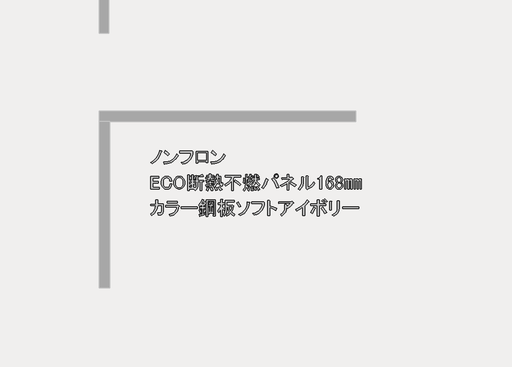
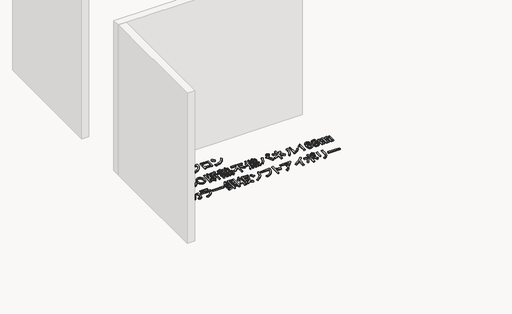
# One storey, part 34 of 117: 1 proxy.
"""IFC4 building model written with IfcOpenShell, lengths in millimetres."""

from ifc_helpers import new_model, si_unit, frame, origin, place, context, project, spatial, polyline, outline, extrude, element, save

model = new_model("IFC4")

# Units and contexts
model_context = context("Model", 3, world=origin())
ifc_project = project(units=[si_unit("LENGTHUNIT", "METRE", prefix="MILLI")], contexts=[model_context])

# Site, building, storey
site = spatial("IfcSite", under=ifc_project)
building = spatial("IfcBuilding", under=site)
storey = spatial("IfcBuildingStorey", under=building, Name="レベル 1", Elevation=500.0)

# Proxy
placement = place(None, origin())
element("IfcBuildingElementProxy", 1, Name="200㎜\u3000MS Pゴシック", ObjectType="200㎜\u3000MS Pゴシック", at=placement, inside=storey, context=model_context, shape_type="SweptSolid", body=[
    extrude(outline(polyline([(24977.6706985, -20641.0496882), (24952.0952502, -20700.8215225), (24923.646156, -20746.7998566), (24881.9782907, -20792.2034615), (24832.8389462, -20829.560858), (24805.2519457, -20807.7211493), (24852.9544673, -20777.2605029), (24892.6107805, -20738.7536481), (24909.9963381, -20714.8305462), (24925.3703435, -20686.7406577), (24938.7327969, -20654.4839827), (24950.0836981, -20618.0605212), (24981.1190736, -20631.8540214), (24984.2800841, -20636.4518548), (24977.6706985, -20641.0496882)])), frame((0.0, 0.0, 500.0), z_axis=(0.0, 0.0, 1.0), x_axis=(1.0, 0.0, 0.0)), (0.0, 0.0, 1.0), 25.0),
    extrude(outline(polyline([(25077.3977052, -20696.2236891), (25018.7753292, -20649.0958967), (25038.3161212, -20624.9572713), (25065.6157571, -20644.7854279), (25099.2374138, -20674.3839804), (25077.3977052, -20696.2236891)])), frame((0.0, 0.0, 500.0), z_axis=(0.0, 0.0, 1.0), x_axis=(1.0, 0.0, 0.0)), (0.0, 0.0, 1.0), 25.0),
    extrude(outline(polyline([(25239.4713328, -20696.2236891), (25222.947869, -20725.965924), (25203.8381239, -20751.9724192), (25182.1420975, -20774.2431748), (25157.8597898, -20792.7781907), (25130.9912008, -20807.577467), (25101.5363306, -20818.6410036), (25069.495179, -20825.9688006), (25034.8677461, -20829.560858), (25029.1204544, -20837.6070664), (25023.3731626, -20831.8597747), (25014.1774958, -20801.9738575), (25050.0082679, -20799.2977748), (25082.7857912, -20792.9937141), (25112.5100658, -20783.0616756), (25139.1810916, -20769.5016591), (25162.7988687, -20752.3136646), (25183.363397, -20731.4976923), (25200.8746766, -20707.053742), (25215.3327074, -20678.9818138), (25239.4713328, -20696.2236891)])), frame((0.0, 0.0, 500.0), z_axis=(0.0, 0.0, 1.0), x_axis=(1.0, 0.0, 0.0)), (0.0, 0.0, 1.0), 25.0),
    extrude(outline(polyline([(25290.2314136, -20811.1695243), (25324.014713, -20801.4889298), (25353.5234641, -20789.1142922), (25378.757667, -20774.0456116), (25399.7173217, -20756.282888), (25416.402428, -20735.8261214), (25428.8129862, -20712.6753118), (25436.9489961, -20686.8304591), (25440.8104577, -20658.2915635), (25268.3917049, -20658.2915635), (25268.3917049, -20633.0034798), (25443.1093744, -20633.0034798), (25459.2017914, -20629.5551047), (25471.8458332, -20641.0496882), (25468.325617, -20677.5449909), (25460.0638851, -20710.5919185), (25447.0606375, -20740.1904711), (25429.3158742, -20766.3406486), (25406.8295952, -20789.042451), (25379.6018005, -20808.2958784), (25347.6324901, -20824.1009308), (25310.921664, -20836.4576081), (25290.2314136, -20811.1695243)])), frame((0.0, 0.0, 500.0), z_axis=(0.0, 0.0, 1.0), x_axis=(1.0, 0.0, 0.0)), (0.0, 0.0, 1.0), 25.0),
    extrude(outline(polyline([(25704.955987, -20810.020066), (25678.5184449, -20810.020066), (25678.5184449, -20797.3760241), (25550.9285679, -20797.3760241), (25550.9285679, -20815.7673577), (25524.4910258, -20815.7673577), (25524.4910258, -20636.4518548), (25704.955987, -20636.4518548), (25704.955987, -20810.020066)]), holes=[polyline([(25550.9285679, -20661.7399386), (25550.9285679, -20772.0879404), (25678.5184449, -20772.0879404), (25678.5184449, -20661.7399386), (25550.9285679, -20661.7399386)])]), frame((0.0, 0.0, 500.0), z_axis=(0.0, 0.0, 1.0), x_axis=(1.0, 0.0, 0.0)), (0.0, 0.0, 1.0), 25.0),
    extrude(outline(polyline([(25981.0099049, -20696.2236891), (25964.4864411, -20725.965924), (25945.376696, -20751.9724192), (25923.6806696, -20774.2431748), (25899.3983619, -20792.7781907), (25872.5297729, -20807.577467), (25843.0749026, -20818.6410036), (25811.0337511, -20825.9688006), (25776.4063182, -20829.560858), (25770.6590264, -20837.6070664), (25764.9117347, -20831.8597747), (25755.7160679, -20801.9738575), (25791.5468399, -20799.2977748), (25824.3243633, -20792.9937141), (25854.0486378, -20783.0616756), (25880.7196637, -20769.5016591), (25904.3374407, -20752.3136646), (25924.9019691, -20731.4976923), (25942.4132486, -20707.053742), (25956.8712795, -20678.9818138), (25981.0099049, -20696.2236891)])), frame((0.0, 0.0, 500.0), z_axis=(0.0, 0.0, 1.0), x_axis=(1.0, 0.0, 0.0)), (0.0, 0.0, 1.0), 25.0),
    extrude(outline(polyline([(25818.9362772, -20696.2236891), (25760.3139013, -20649.0958967), (25779.8546933, -20624.9572713), (25807.1543291, -20644.7854279), (25840.7759859, -20674.3839804), (25818.9362772, -20696.2236891)])), frame((0.0, 0.0, 500.0), z_axis=(0.0, 0.0, 1.0), x_axis=(1.0, 0.0, 0.0)), (0.0, 0.0, 1.0), 25.0),
    extrude(outline(polyline([(24810.9992375, -21029.5551047), (24937.4396562, -21029.5551047), (24937.4396562, -21051.3948134), (24837.4367796, -21051.3948134), (24837.4367796, -21112.316106), (24930.5429061, -21112.316106), (24930.5429061, -21134.1558147), (24837.4367796, -21134.1558147), (24837.4367796, -21204.2727742), (24943.186948, -21204.2727742), (24943.186948, -21226.1124829), (24810.9992375, -21226.1124829), (24810.9992375, -21029.5551047)])), frame((0.0, 0.0, 500.0), z_axis=(0.0, 0.0, 1.0), x_axis=(1.0, 0.0, 0.0)), (0.0, 0.0, 1.0), 25.0),
    extrude(outline(polyline([(24975.2798252, -21128.408523), (24977.0758538, -21104.485421), (24982.4639399, -21083.2922827), (24991.4440832, -21064.8291079), (25004.016284, -21049.0958967), (25029.0170031, -21032.7161152), (25060.3397432, -21027.256188), (25091.0877541, -21032.141386), (25114.3642858, -21046.79698), (25130.1693381, -21070.3608762), (25136.2039944, -21099.6720642), (25108.616994, -21099.6720642), (25103.731796, -21078.4070847), (25093.6740354, -21062.8893969), (25078.4437123, -21052.5442717), (25060.3397432, -21049.0958967), (25040.7989512, -21053.1190009), (25023.5570759, -21065.1883136), (25014.5050914, -21076.8984206), (25008.0393882, -21091.3384911), (25002.8668256, -21128.408523), (25008.0393882, -21165.4785548), (25014.5050914, -21179.9186254), (25023.5570759, -21191.6287323), (25040.2242221, -21202.8359513), (25060.3397432, -21206.5716909), (25080.742629, -21203.4106804), (25095.9729521, -21193.927649), (25108.0422648, -21174.3868571), (25112.0653691, -21147.949315), (25139.6523695, -21147.949315), (25133.3303486, -21182.7204301), (25126.2899162, -21196.8731361), (25116.6632025, -21208.8706076), (25105.8151893, -21217.4197041), (25092.8119417, -21223.5262016), (25060.3397432, -21228.4113996), (25029.0170031, -21222.9514724), (25004.016284, -21206.5716909), (24991.4440832, -21190.9103209), (24982.4639399, -21172.6626695), (24977.0758538, -21151.8287369), (24975.2798252, -21128.408523)])), frame((0.0, 0.0, 500.0), z_axis=(0.0, 0.0, 1.0), x_axis=(1.0, 0.0, 0.0)), (0.0, 0.0, 1.0), 25.0),
    extrude(outline(polyline([(25170.6417667, -21127.2590646), (25172.3659542, -21104.4135799), (25177.5385168, -21084.1543764), (25186.1594544, -21066.4814543), (25198.2287671, -21051.3948134), (25210.9446501, -21040.8341648), (25224.9536738, -21033.2908443), (25240.2558381, -21028.7648521), (25256.8511431, -21027.256188), (25273.446448, -21028.7648521), (25288.7486123, -21033.2908443), (25302.757636, -21040.8341648), (25315.473519, -21051.3948134), (25327.5428317, -21066.4814543), (25336.1637694, -21084.1543764), (25341.336332, -21104.4135799), (25343.0605195, -21127.2590646), (25341.336332, -21150.1045494), (25336.1637694, -21170.3637528), (25327.5428317, -21188.036675), (25315.473519, -21203.1233159), (25302.757636, -21213.6839645), (25288.7486123, -21221.2272849), (25273.446448, -21225.7532772), (25256.8511431, -21227.2619413), (25240.2558381, -21225.7532772), (25224.9536738, -21221.2272849), (25210.9446501, -21213.6839645), (25198.2287671, -21203.1233159), (25186.1594544, -21188.036675), (25177.5385168, -21170.3637528), (25172.3659542, -21150.1045494), (25170.6417667, -21127.2590646)]), holes=[polyline([(25256.8511431, -21049.0958967), (25236.1608927, -21053.4063655), (25217.7695591, -21066.337772), (25209.2204626, -21077.4731498), (25203.1139651, -21091.3384911), (25198.2287671, -21127.2590646), (25203.1139651, -21163.1796381), (25209.2204626, -21177.0449795), (25217.7695591, -21188.1803573), (25236.1608927, -21201.1117637), (25256.8511431, -21205.4222326), (25277.5413934, -21201.1117637), (25295.932727, -21188.1803573), (25304.4818235, -21177.0449795), (25310.588321, -21163.1796381), (25315.473519, -21127.2590646), (25310.588321, -21091.3384911), (25304.4818235, -21077.4731498), (25295.932727, -21066.337772), (25277.5413934, -21053.4063655), (25256.8511431, -21049.0958967)])]), frame((0.0, 0.0, 500.0), z_axis=(0.0, 0.0, 1.0), x_axis=(1.0, 0.0, 0.0)), (0.0, 0.0, 1.0), 25.0),
    extrude(outline(polyline([(25481.8691101, -21073.2345221), (25499.1109854, -21020.3594379), (25519.8012357, -21026.1067296), (25521.5254232, -21029.2677401), (25517.502319, -21031.8540214), (25500.2604437, -21080.1312722), (25481.8691101, -21073.2345221)])), frame((0.0, 0.0, 500.0), z_axis=(0.0, 0.0, 1.0), x_axis=(1.0, 0.0, 0.0)), (0.0, 0.0, 1.0), 25.0),
    extrude(outline(polyline([(25635.8965292, -21024.9572713), (25634.1723417, -21029.5551047), (25626.7008624, -21027.256188), (25549.6871528, -21039.9002299), (25549.6871528, -21089.326939), (25641.643821, -21089.326939), (25641.643821, -21111.1666477), (25610.6084455, -21111.1666477), (25610.6084455, -21251.4005666), (25587.6192785, -21251.4005666), (25587.6192785, -21111.1666477), (25549.6871528, -21111.1666477), (25549.6871528, -21160.5933568), (25547.1008716, -21188.3958807), (25539.3420277, -21213.1810764), (25526.4106212, -21234.948944), (25508.3066522, -21253.6994833), (25491.0647769, -21234.1586914), (25501.4099021, -21224.9630245), (25411.7521506, -21224.9630245), (25411.7521506, -21246.8027332), (25388.7629836, -21246.8027332), (25388.7629836, -21007.715396), (25410.6026922, -21007.715396), (25415.4878902, -21010.0143127), (25411.7521506, -21014.6121461), (25411.7521506, -21090.4763974), (25454.2821096, -21090.4763974), (25454.2821096, -21003.1175626), (25472.6734433, -21003.1175626), (25477.5586413, -21005.4164793), (25473.8229016, -21010.0143127), (25473.8229016, -21090.4763974), (25517.502319, -21090.4763974), (25517.502319, -21108.867731), (25473.8229016, -21108.867731), (25473.8229016, -21118.0633978), (25514.0539439, -21144.5009399), (25500.2604437, -21166.3406486), (25473.8229016, -21139.9031065), (25473.8229016, -21192.7781907), (25454.2821096, -21192.7781907), (25454.2821096, -21144.5009399), (25441.0633386, -21164.3290965), (25426.6951092, -21180.1341488), (25414.0510673, -21161.7428152), (25435.890776, -21137.6041898), (25453.1326513, -21108.867731), (25411.7521506, -21108.867731), (25411.7521506, -21203.1233159), (25509.4561105, -21203.1233159), (25509.4561105, -21216.9168161), (25522.387517, -21192.7781907), (25526.6979858, -21159.4438985), (25526.6979858, -21014.6121461), (25548.5376945, -21020.3594379), (25584.7456326, -21012.8879586), (25615.2062789, -20999.6691875), (25635.8965292, -21024.9572713)])), frame((0.0, 0.0, 500.0), z_axis=(0.0, 0.0, 1.0), x_axis=(1.0, 0.0, 0.0)), (0.0, 0.0, 1.0), 25.0),
    extrude(outline(polyline([(25427.8445675, -21081.2807305), (25415.2005257, -21030.7045631), (25434.7413176, -21023.8078129), (25442.5001615, -21047.9464383), (25447.3853595, -21074.3839804), (25427.8445675, -21081.2807305)])), frame((0.0, 0.0, 500.0), z_axis=(0.0, 0.0, 1.0), x_axis=(1.0, 0.0, 0.0)), (0.0, 0.0, 1.0), 25.0),
    extrude(outline(polyline([(25771.5326148, -21197.3760241), (25781.5903754, -21224.67566), (25786.4755734, -21246.8027332), (25757.7391146, -21252.550025), (25755.1528333, -21230.9976809), (25747.3939894, -21200.8243992), (25771.5326148, -21197.3760241)])), frame((0.0, 0.0, 500.0), z_axis=(0.0, 0.0, 1.0), x_axis=(1.0, 0.0, 0.0)), (0.0, 0.0, 1.0), 25.0),
    extrude(outline(polyline([(25827.856074, -21250.2511083), (25819.522501, -21225.5377537), (25806.0163654, -21204.2727742), (25826.7066157, -21196.2265657), (25843.6611264, -21217.7789098), (25855.4430745, -21241.0554415), (25827.856074, -21250.2511083)])), frame((0.0, 0.0, 500.0), z_axis=(0.0, 0.0, 1.0), x_axis=(1.0, 0.0, 0.0)), (0.0, 0.0, 1.0), 25.0),
    extrude(outline(polyline([(25726.7037391, -21201.9738575), (25730.1521141, -21206.8590555), (25724.4048224, -21210.020066), (25714.6344264, -21235.5955143), (25703.714572, -21254.8489417), (25680.725405, -21243.3543582), (25693.3694469, -21219.790462), (25703.714572, -21192.7781907), (25726.7037391, -21201.9738575)])), frame((0.0, 0.0, 500.0), z_axis=(0.0, 0.0, 1.0), x_axis=(1.0, 0.0, 0.0)), (0.0, 0.0, 1.0), 25.0),
    extrude(outline(polyline([(25758.8885729, -21065.1883136), (25733.6004892, -21065.1883136), (25729.0026558, -21082.6457123), (25718.6575306, -21095.9363245), (25702.5651137, -21105.0601502), (25680.725405, -21110.0171893), (25676.1275716, -21090.4763974), (25701.4156553, -21081.8554597), (25708.8871346, -21074.5276627), (25712.9102388, -21065.1883136), (25677.2770299, -21065.1883136), (25677.2770299, -21046.79698), (25731.3015725, -21046.79698), (25731.3015725, -21029.5551047), (25687.6221551, -21029.5551047), (25687.6221551, -21011.1637711), (25731.3015725, -21011.1637711), (25731.3015725, -20992.7724374), (25753.1412812, -20992.7724374), (25758.0264792, -20995.0713541), (25754.2907395, -20999.6691875), (25754.2907395, -21011.1637711), (25796.8206985, -21011.1637711), (25796.8206985, -21029.5551047), (25754.2907395, -21029.5551047), (25754.2907395, -21046.79698), (25807.1658237, -21046.79698), (25807.1658237, -21065.1883136), (25778.4293649, -21065.1883136), (25778.4293649, -21077.8323555), (25779.8661878, -21083.0049181), (25784.1766567, -21084.7291056), (25794.5217818, -21084.7291056), (25798.2575215, -21081.5680951), (25797.9701569, -21072.0850637), (25817.5109489, -21074.3839804), (25814.637303, -21095.9363245), (25809.3210581, -21101.3244106), (25801.4185319, -21103.1204392), (25777.2799066, -21103.1204392), (25763.4864063, -21098.2352412), (25758.8885729, -21083.5796472), (25758.8885729, -21065.1883136)])), frame((0.0, 0.0, 500.0), z_axis=(0.0, 0.0, 1.0), x_axis=(1.0, 0.0, 0.0)), (0.0, 0.0, 1.0), 25.0),
    extrude(outline(polyline([(25889.9268251, -21047.9464383), (25868.0871164, -21047.9464383), (25863.489283, -21105.4193559), (25883.0300749, -21123.8106896), (25872.6849498, -21145.6503983), (25856.5925328, -21129.5579813), (25837.3391054, -21167.2027424), (25807.1658237, -21199.6749408), (25789.9239484, -21178.9846905), (25805.0105893, -21167.0590601), (25818.085678, -21151.9724192), (25829.1492147, -21133.7247679), (25838.2011992, -21112.316106), (25820.9593239, -21097.3731475), (25829.0055324, -21080.1312722), (25842.7990326, -21090.4763974), (25845.0979493, -21047.9464383), (25817.5109489, -21047.9464383), (25817.5109489, -21029.5551047), (25845.0979493, -21029.5551047), (25845.0979493, -20995.0713541), (25866.937658, -20995.0713541), (25871.822856, -20997.3702708), (25868.0871164, -21001.9681043), (25868.0871164, -21029.5551047), (25909.467617, -21029.5551047), (25909.467617, -21126.1096063), (25912.9159921, -21150.2482317), (25916.1488437, -21152.2597838), (25918.9506484, -21149.0987733), (25923.2611173, -21127.2590646), (25942.8019092, -21134.1558147), (25938.275917, -21160.9525626), (25930.445232, -21176.9731384), (25919.3098542, -21182.2175421), (25904.8697836, -21176.6857738), (25898.3322393, -21169.3579768), (25893.6625647, -21157.719711), (25889.9268251, -21121.5117729), (25889.9268251, -21047.9464383)])), frame((0.0, 0.0, 500.0), z_axis=(0.0, 0.0, 1.0), x_axis=(1.0, 0.0, 0.0)), (0.0, 0.0, 1.0), 25.0),
    extrude(outline(polyline([(25688.7716134, -21187.0308989), (25686.7600613, -21191.9160969), (25683.0243217, -21190.479274), (25677.2770299, -21166.3406486), (25732.4510308, -21158.2944401), (25732.4510308, -21135.3052731), (25688.7716134, -21135.3052731), (25688.7716134, -21116.9139395), (25732.4510308, -21116.9139395), (25732.4510308, -21093.9247724), (25750.8423645, -21093.9247724), (25755.7275625, -21096.2236891), (25751.9918228, -21100.8215225), (25751.9918228, -21116.9139395), (25796.8206985, -21116.9139395), (25796.8206985, -21135.3052731), (25751.9918228, -21135.3052731), (25751.9918228, -21154.8460651), (25802.5679903, -21145.6503983), (25802.5679903, -21161.7428152), (25688.7716134, -21187.0308989)])), frame((0.0, 0.0, 500.0), z_axis=(0.0, 0.0, 1.0), x_axis=(1.0, 0.0, 0.0)), (0.0, 0.0, 1.0), 25.0),
    extrude(outline(polyline([(25886.47845, -21191.6287323), (25911.1918046, -21212.8937119), (25930.1578674, -21237.6070664), (25903.7203253, -21252.550025), (25884.4668979, -21222.9514724), (25865.7881997, -21203.1233159), (25886.47845, -21191.6287323)])), frame((0.0, 0.0, 500.0), z_axis=(0.0, 0.0, 1.0), x_axis=(1.0, 0.0, 0.0)), (0.0, 0.0, 1.0), 25.0),
    extrude(outline(polyline([(26204.8784135, -21175.5363154), (26165.7968295, -21137.3168252), (26124.4163289, -21107.7182726), (26140.5087458, -21087.0280223), (26184.1881632, -21115.1897519), (26225.5686638, -21153.6966067), (26204.8784135, -21175.5363154)])), frame((0.0, 0.0, 500.0), z_axis=(0.0, 0.0, 1.0), x_axis=(1.0, 0.0, 0.0)), (0.0, 0.0, 1.0), 25.0),
    extrude(outline(polyline([(25978.4351182, -21014.6121461), (26219.8213721, -21014.6121461), (26219.8213721, -21039.9002299), (26119.8184955, -21039.9002299), (26109.4733703, -21064.0388553), (26109.4733703, -21250.2511083), (26083.0358282, -21250.2511083), (26083.0358282, -21103.1204392), (26062.2018956, -21126.3969709), (26038.7816816, -21146.7998566), (26012.7751864, -21164.3290965), (25984.1824099, -21178.9846905), (25968.089993, -21152.5471484), (26007.674465, -21132.1442626), (26041.3679629, -21106.5688143), (26069.1704868, -21075.8208034), (26091.0820367, -21039.9002299), (25978.4351182, -21039.9002299), (25978.4351182, -21014.6121461)])), frame((0.0, 0.0, 500.0), z_axis=(0.0, 0.0, 1.0), x_axis=(1.0, 0.0, 0.0)), (0.0, 0.0, 1.0), 25.0),
    extrude(outline(polyline([(26392.2401249, -21249.1016499), (26392.8148541, -21222.0893787), (26389.9412082, -21193.927649), (26409.4820002, -21192.7781907), (26415.8040211, -21218.9283682), (26416.3787503, -21246.8027332), (26392.2401249, -21249.1016499)])), frame((0.0, 0.0, 500.0), z_axis=(0.0, 0.0, 1.0), x_axis=(1.0, 0.0, 0.0)), (0.0, 0.0, 1.0), 25.0),
    extrude(outline(polyline([(26372.6993329, -21197.3760241), (26364.0783953, -21227.8366704), (26349.7101659, -21254.8489417), (26330.1693739, -21242.2048998), (26344.2502387, -21217.4915453), (26354.3079993, -21189.3298156), (26372.6993329, -21197.3760241)])), frame((0.0, 0.0, 500.0), z_axis=(0.0, 0.0, 1.0), x_axis=(1.0, 0.0, 0.0)), (0.0, 0.0, 1.0), 25.0),
    extrude(outline(polyline([(26287.6394149, -21059.4410219), (26292.2372483, -21061.7399386), (26287.6394149, -21066.337772), (26286.4899565, -21105.9940851), (26280.7426647, -21139.9031065), (26262.3513311, -21127.2590646), (26268.0986229, -21092.7753141), (26269.2480812, -21055.9926468), (26287.6394149, -21059.4410219)])), frame((0.0, 0.0, 500.0), z_axis=(0.0, 0.0, 1.0), x_axis=(1.0, 0.0, 0.0)), (0.0, 0.0, 1.0), 25.0),
    extrude(outline(polyline([(26339.3650407, -21041.0496882), (26348.5607075, -21058.2915635), (26349.9975305, -21064.3262199), (26345.1123325, -21064.0388553), (26318.6747904, -21084.7291056), (26318.6747904, -21168.6395653), (26332.4682906, -21180.9962426), (26343.9628741, -21197.3760241), (26331.3188322, -21218.0662744), (26312.9274986, -21192.7781907), (26301.1455505, -21228.6987642), (26279.5932064, -21258.2973168), (26264.6502478, -21239.9059831), (26279.7368887, -21221.1554438), (26290.5130607, -21200.5370346), (26296.978764, -21178.0507556), (26299.1339984, -21153.6966067), (26299.1339984, -20996.2208125), (26317.525332, -20996.2208125), (26322.41053, -20998.5197292), (26318.6747904, -21003.1175626), (26318.6747904, -21061.7399386), (26339.3650407, -21041.0496882)])), frame((0.0, 0.0, 500.0), z_axis=(0.0, 0.0, 1.0), x_axis=(1.0, 0.0, 0.0)), (0.0, 0.0, 1.0), 25.0),
    extrude(outline(polyline([(26489.9440848, -21010.0143127), (26511.7837935, -21034.1529381), (26494.5419182, -21045.6475216), (26487.9325327, -21034.1529381), (26475.0011262, -21020.3594379), (26489.9440848, -21010.0143127)])), frame((0.0, 0.0, 500.0), z_axis=(0.0, 0.0, 1.0), x_axis=(1.0, 0.0, 0.0)), (0.0, 0.0, 1.0), 25.0),
    extrude(outline(polyline([(26500.28921, -21246.8027332), (26487.0704389, -21218.6410036), (26470.4032928, -21193.927649), (26488.7946265, -21185.8814406), (26507.7606893, -21208.8706076), (26523.278377, -21236.4576081), (26500.28921, -21246.8027332)])), frame((0.0, 0.0, 500.0), z_axis=(0.0, 0.0, 1.0), x_axis=(1.0, 0.0, 0.0)), (0.0, 0.0, 1.0), 25.0),
    extrude(outline(polyline([(26450.8625008, -21191.6287323), (26469.2538345, -21241.0554415), (26445.1152091, -21245.6532749), (26431.3217089, -21195.0771074), (26450.8625008, -21191.6287323)])), frame((0.0, 0.0, 500.0), z_axis=(0.0, 0.0, 1.0), x_axis=(1.0, 0.0, 0.0)), (0.0, 0.0, 1.0), 25.0),
    extrude(outline(polyline([(26511.7837935, -21176.6857738), (26481.0357826, -21146.2251274), (26460.0581677, -21112.316106), (26451.6527535, -21134.4431793), (26440.2300111, -21153.6966067), (26425.7899405, -21170.0763882), (26408.3325418, -21183.5825239), (26394.5390416, -21165.1911902), (26415.3729742, -21146.2969686), (26430.7469797, -21125.2475125), (26440.661058, -21102.042822), (26445.1152091, -21076.6828971), (26416.3787503, -21076.6828971), (26408.404383, -21107.2872258), (26394.8264062, -21134.7305439), (26375.6448199, -21159.0128516), (26350.8596242, -21180.1341488), (26338.2155823, -21164.0417319), (26364.0783953, -21142.4893878), (26379.596083, -21121.5117729), (26357.7563743, -21101.9709809), (26343.9628741, -21122.6612312), (26330.1693739, -21107.7182726), (26342.5978923, -21088.6803687), (26352.2964472, -21063.7514907), (26359.2650384, -21032.9316386), (26363.5036661, -20996.2208125), (26384.1939164, -20998.5197292), (26387.6422915, -21001.1060105), (26381.8949997, -21004.267021), (26379.596083, -21022.6583546), (26423.2755004, -21022.6583546), (26419.8271253, -21058.2915635), (26445.1152091, -21058.2915635), (26445.1152091, -20996.2208125), (26466.9549178, -20996.2208125), (26471.8401158, -20998.5197292), (26468.1043761, -21003.1175626), (26468.1043761, -21058.2915635), (26517.5310853, -21058.2915635), (26517.5310853, -21076.6828971), (26468.1043761, -21076.6828971), (26474.6419205, -21098.4507647), (26486.2083452, -21118.9254916), (26502.8036501, -21138.1070778), (26524.4278354, -21155.9955234), (26511.7837935, -21176.6857738)]), holes=[polyline([(26387.6422915, -21106.5688143), (26394.5390416, -21087.0280223), (26369.2509579, -21070.9356054), (26363.5036661, -21088.1774807), (26387.6422915, -21106.5688143)]), polyline([(26377.2971663, -21041.0496882), (26373.8487913, -21057.1421052), (26399.136875, -21070.9356054), (26403.7347084, -21041.0496882), (26377.2971663, -21041.0496882)])]), frame((0.0, 0.0, 500.0), z_axis=(0.0, 0.0, 1.0), x_axis=(1.0, 0.0, 0.0)), (0.0, 0.0, 1.0), 25.0),
    extrude(outline(polyline([(26737.0776305, -21050.245355), (26763.730696, -21086.9561812), (26786.2169751, -21124.6727833), (26804.5364675, -21163.3951616), (26818.6891735, -21203.1233159), (26787.653798, -21213.468441), (26772.2079514, -21170.3637528), (26754.6068704, -21131.856898), (26734.8505549, -21097.9478766), (26712.9390051, -21068.6366887), (26737.0776305, -21050.245355)])), frame((0.0, 0.0, 500.0), z_axis=(0.0, 0.0, 1.0), x_axis=(1.0, 0.0, 0.0)), (0.0, 0.0, 1.0), 25.0),
    extrude(outline(polyline([(26649.7187958, -21076.6828971), (26653.7419, -21082.1428243), (26647.419879, -21087.0280223), (26635.4942486, -21122.4457078), (26620.4076078, -21156.282888), (26602.1599564, -21188.539563), (26580.7512946, -21219.2157328), (26554.3137525, -21201.9738575), (26577.518443, -21170.5074351), (26596.556347, -21137.0294606), (26611.4274644, -21101.539934), (26622.1317953, -21064.0388553), (26649.7187958, -21076.6828971)])), frame((0.0, 0.0, 500.0), z_axis=(0.0, 0.0, 1.0), x_axis=(1.0, 0.0, 0.0)), (0.0, 0.0, 1.0), 25.0),
    extrude(outline(polyline([(26783.0559646, -21055.9926468), (26770.4119227, -21053.6937301), (26760.0667975, -21046.79698), (26753.1700474, -21036.4518548), (26750.8711307, -21023.8078129), (26753.1700474, -21011.1637711), (26760.0667975, -21000.8186459), (26770.4119227, -20993.9218958), (26783.0559646, -20991.6229791), (26795.7000065, -20993.9218958), (26806.0451316, -21000.8186459), (26812.9418817, -21011.1637711), (26815.2407984, -21023.8078129), (26812.9418817, -21036.4518548), (26806.0451316, -21046.79698), (26795.7000065, -21053.6937301), (26783.0559646, -21055.9926468)]), holes=[polyline([(26783.0559646, -21044.4980633), (26791.3895376, -21043.0612403), (26797.9989232, -21038.7507715), (26802.309392, -21032.141386), (26803.7462149, -21023.8078129), (26802.309392, -21015.4742399), (26797.9989232, -21008.8648544), (26791.3895376, -21004.5543855), (26783.0559646, -21003.1175626), (26774.7223915, -21004.5543855), (26768.113006, -21008.8648544), (26763.8025372, -21015.4742399), (26762.3657143, -21023.8078129), (26763.8025372, -21032.141386), (26768.113006, -21038.7507715), (26774.7223915, -21043.0612403), (26783.0559646, -21044.4980633)])]), frame((0.0, 0.0, 500.0), z_axis=(0.0, 0.0, 1.0), x_axis=(1.0, 0.0, 0.0)), (0.0, 0.0, 1.0), 25.0),
    extrude(outline(polyline([(27026.7411352, -21045.6475216), (27033.6378853, -21043.3486049), (27046.2819272, -21060.5904802), (27047.4313856, -21066.6251366), (27041.6840938, -21068.6366887), (26978.4638844, -21124.9601479), (26978.4638844, -21245.6532749), (26952.0263423, -21245.6532749), (26952.0263423, -21143.3514816), (26911.7953, -21167.4901069), (26866.9664243, -21189.3298156), (26847.4256323, -21168.6395653), (26892.9729195, -21149.1706145), (26934.2097379, -21126.3969709), (26971.1360874, -21100.3186345), (27003.7519682, -21070.9356054), (26873.8631744, -21076.6828971), (26870.4147993, -21051.3948134), (26952.0263423, -21049.0958967), (26952.0263423, -20997.3702708), (26975.0155094, -20997.3702708), (26981.0501657, -21000.8186459), (26978.4638844, -21006.5659377), (26978.4638844, -21047.9464383), (27026.7411352, -21045.6475216)])), frame((0.0, 0.0, 500.0), z_axis=(0.0, 0.0, 1.0), x_axis=(1.0, 0.0, 0.0)), (0.0, 0.0, 1.0), 25.0),
    extrude(outline(polyline([(27072.7194693, -21189.3298156), (27035.6494375, -21160.0186277), (27002.6025098, -21138.7536481), (27019.8443851, -21116.9139395), (27058.6386045, -21140.1904711), (27092.2602613, -21166.3406486), (27072.7194693, -21189.3298156)])), frame((0.0, 0.0, 500.0), z_axis=(0.0, 0.0, 1.0), x_axis=(1.0, 0.0, 0.0)), (0.0, 0.0, 1.0), 25.0),
    extrude(outline(polyline([(27279.7139293, -21196.2265657), (27304.4991251, -21184.0135708), (27328.2785447, -21166.9153778), (27351.0521883, -21144.9319868), (27372.8200559, -21118.0633978), (27388.9124728, -21139.9031065), (27365.6359412, -21167.7056304), (27339.4857636, -21191.3413678), (27310.4619403, -21210.8103186), (27278.564471, -21226.1124829), (27269.3688042, -21230.7103163), (27250.9774705, -21216.9168161), (27253.2763872, -21211.1695243), (27253.2763872, -21026.1067296), (27277.4150126, -21026.1067296), (27283.1623044, -21029.5551047), (27279.7139293, -21035.3023965), (27279.7139293, -21196.2265657)])), frame((0.0, 0.0, 500.0), z_axis=(0.0, 0.0, 1.0), x_axis=(1.0, 0.0, 0.0)), (0.0, 0.0, 1.0), 25.0),
    extrude(outline(polyline([(27125.6865102, -21227.2619413), (27150.8309116, -21198.0225944), (27168.7911984, -21165.4785548), (27179.5673704, -21129.6298225), (27183.1594278, -21090.4763974), (27183.1594278, -21038.7507715), (27207.2980532, -21038.7507715), (27213.0453449, -21042.1991466), (27209.5969699, -21047.9464383), (27209.5969699, -21089.326939), (27205.7893891, -21135.0897496), (27194.3666467, -21175.82368), (27175.3287427, -21211.5287301), (27148.6756772, -21242.2048998), (27125.6865102, -21227.2619413)])), frame((0.0, 0.0, 500.0), z_axis=(0.0, 0.0, 1.0), x_axis=(1.0, 0.0, 0.0)), (0.0, 0.0, 1.0), 25.0),
    extrude(outline(polyline([(27468.2250991, -21049.0958967), (27476.2713075, -21038.1760423), (27479.7196826, -21026.1067296), (27493.5131828, -21026.1067296), (27493.5131828, -21224.9630245), (27467.0756407, -21224.9630245), (27467.0756407, -21072.0850637), (27432.5918902, -21072.0850637), (27432.5918902, -21058.2915635), (27442.9370153, -21058.2915635), (27457.3052447, -21055.9926468), (27468.2250991, -21049.0958967)])), frame((0.0, 0.0, 500.0), z_axis=(0.0, 0.0, 1.0), x_axis=(1.0, 0.0, 0.0)), (0.0, 0.0, 1.0), 25.0),
    extrude(outline(polyline([(27564.7796006, -21131.856898), (27566.5037882, -21102.4738689), (27571.6763508, -21077.5449909), (27580.2972884, -21057.070264), (27592.3666011, -21041.0496882), (27607.8842888, -21030.7045631), (27626.8503517, -21027.256188), (27646.6785082, -21030.7045631), (27662.4835606, -21041.0496882), (27673.6907795, -21058.0041989), (27677.4265191, -21078.9818138), (27650.988977, -21078.9818138), (27649.2647895, -21065.1883136), (27644.0922269, -21055.9926468), (27636.3333831, -21050.8200842), (27626.8503517, -21049.0958967), (27617.3673203, -21050.8200842), (27609.6084764, -21055.9926468), (27601.5622679, -21066.9125011), (27595.8149762, -21081.2807305), (27591.2171427, -21120.3623145), (27602.7117263, -21105.4193559), (27614.2063098, -21097.6605121), (27627.99981, -21095.0742308), (27646.9658728, -21098.5226058), (27662.4835606, -21108.867731), (27675.414967, -21130.4200751), (27679.7254359, -21160.5933568), (27675.1276024, -21191.9160969), (27661.3341022, -21214.6178994), (27644.9543207, -21224.9630245), (27623.4019766, -21228.4113996), (27603.57382, -21224.1009308), (27585.469851, -21211.1695243), (27576.4178665, -21198.4536413), (27569.9521632, -21180.9962426), (27564.7796006, -21131.856898)]), holes=[polyline([(27625.7008933, -21115.7644811), (27615.0684035, -21117.7760332), (27606.1601013, -21123.8106896), (27596.6770699, -21138.7536481), (27593.5160594, -21158.2944401), (27596.9644345, -21182.4330655), (27607.3095597, -21199.6749408), (27615.6431327, -21205.7095972), (27624.551435, -21207.7211493), (27634.0344664, -21205.9969617), (27641.7933102, -21200.8243992), (27649.5521541, -21185.594076), (27652.1384354, -21160.5933568), (27649.5521541, -21138.178919), (27641.7933102, -21123.8106896), (27633.7471018, -21117.7760332), (27625.7008933, -21115.7644811)])]), frame((0.0, 0.0, 500.0), z_axis=(0.0, 0.0, 1.0), x_axis=(1.0, 0.0, 0.0)), (0.0, 0.0, 1.0), 25.0),
    extrude(outline(polyline([(27715.3586448, -21082.4301889), (27719.381749, -21059.4410219), (27731.4510617, -21041.0496882), (27747.8308432, -21030.7045631), (27769.3831873, -21027.256188), (27791.222896, -21030.9919276), (27808.4647713, -21042.1991466), (27819.6719902, -21059.7283864), (27823.4077299, -21082.4301889), (27819.9593548, -21100.5341579), (27809.6142296, -21115.7644811), (27795.8207294, -21123.8106896), (27795.8207294, -21126.1096063), (27805.87849, -21130.1327105), (27815.3615214, -21137.6041898), (27825.7066466, -21153.6966067), (27829.1550216, -21174.3868571), (27825.1319174, -21195.6518366), (27813.0626047, -21213.468441), (27794.6712711, -21224.67566), (27769.3831873, -21228.4113996), (27744.0951036, -21224.67566), (27725.7037699, -21213.468441), (27713.6344572, -21195.6518366), (27709.611353, -21174.3868571), (27713.0597281, -21153.6966067), (27723.4048532, -21137.6041898), (27732.8878846, -21130.1327105), (27742.9456452, -21126.1096063), (27742.9456452, -21123.8106896), (27728.0026866, -21113.4655644), (27718.5196552, -21099.3846996), (27715.3586448, -21082.4301889)]), holes=[polyline([(27769.3831873, -21047.9464383), (27758.7506976, -21049.9579904), (27749.8423953, -21055.9926468), (27742.9456452, -21067.1998657), (27740.6467285, -21082.4301889), (27742.9456452, -21096.7984183), (27749.8423953, -21107.7182726), (27758.463333, -21113.752929), (27768.233729, -21115.7644811), (27780.3030417, -21114.0402936), (27788.9239793, -21108.867731), (27795.8207294, -21097.6605121), (27798.1196461, -21082.4301889), (27795.8207294, -21067.1998657), (27788.9239793, -21055.9926468), (27780.0156771, -21049.9579904), (27769.3831873, -21047.9464383)]), polyline([(27769.3831873, -21135.3052731), (27755.8770517, -21137.6041898), (27745.2445619, -21144.5009399), (27738.3478118, -21155.7081588), (27736.0488951, -21170.938482), (27738.6351764, -21186.4561698), (27746.3940203, -21198.5254825), (27756.7391454, -21205.4222326), (27769.3831873, -21207.7211493), (27782.0272292, -21205.4222326), (27792.3723544, -21198.5254825), (27800.1311982, -21186.4561698), (27802.7174795, -21170.938482), (27800.1311982, -21155.4207942), (27792.3723544, -21143.3514816), (27782.6019584, -21137.3168252), (27769.3831873, -21135.3052731)])]), frame((0.0, 0.0, 500.0), z_axis=(0.0, 0.0, 1.0), x_axis=(1.0, 0.0, 0.0)), (0.0, 0.0, 1.0), 25.0),
    extrude(outline(polyline([(27877.4322724, -21227.2619413), (27857.8914804, -21227.2619413), (27857.8914804, -21069.786147), (27877.4322724, -21069.786147), (27877.4322724, -21087.0280223), (27889.5015851, -21071.5103346), (27902.7203561, -21066.337772), (27911.916023, -21067.7745949), (27918.8127731, -21072.0850637), (27925.7095232, -21085.878564), (27938.6409296, -21071.22297), (27952.1470653, -21066.337772), (27960.4806383, -21067.7745949), (27967.0900239, -21072.0850637), (27972.2625864, -21080.7060014), (27973.986774, -21092.7753141), (27973.986774, -21227.2619413), (27954.445982, -21227.2619413), (27954.445982, -21103.1204392), (27951.8597007, -21093.6374078), (27944.1008568, -21090.4763974), (27933.7557317, -21095.0742308), (27927.7210753, -21103.6951684), (27925.7095232, -21113.4655644), (27925.7095232, -21227.2619413), (27906.1687312, -21227.2619413), (27906.1687312, -21103.1204392), (27903.5824499, -21093.6374078), (27895.823606, -21090.4763974), (27885.4784809, -21095.0742308), (27879.4438245, -21103.6951684), (27877.4322724, -21113.4655644), (27877.4322724, -21227.2619413)])), frame((0.0, 0.0, 500.0), z_axis=(0.0, 0.0, 1.0), x_axis=(1.0, 0.0, 0.0)), (0.0, 0.0, 1.0), 25.0),
    extrude(outline(polyline([(28099.2777343, -21066.337772), (28107.6113074, -21067.7745949), (28114.2206929, -21072.0850637), (28119.3932555, -21080.7060014), (28121.117443, -21092.7753141), (28121.117443, -21227.2619413), (28101.5766511, -21227.2619413), (28101.5766511, -21103.1204392), (28098.9903698, -21093.6374078), (28091.2315259, -21090.4763974), (28080.8864007, -21095.0742308), (28074.8517444, -21103.6951684), (28072.8401922, -21113.4655644), (28072.8401922, -21227.2619413), (28053.2994003, -21227.2619413), (28053.2994003, -21103.1204392), (28050.713119, -21093.6374078), (28042.9542751, -21090.4763974), (28032.6091499, -21095.0742308), (28026.5744936, -21103.6951684), (28024.5629415, -21113.4655644), (28024.5629415, -21227.2619413), (28005.0221495, -21227.2619413), (28005.0221495, -21069.786147), (28024.5629415, -21069.786147), (28024.5629415, -21087.0280223), (28036.6322542, -21071.5103346), (28049.8510252, -21066.337772), (28059.046692, -21067.7745949), (28065.9434421, -21072.0850637), (28072.8401922, -21085.878564), (28085.7715987, -21071.22297), (28099.2777343, -21066.337772)])), frame((0.0, 0.0, 500.0), z_axis=(0.0, 0.0, 1.0), x_axis=(1.0, 0.0, 0.0)), (0.0, 0.0, 1.0), 25.0),
    extrude(outline(polyline([(24981.1190736, -21484.7291056), (24915.5999475, -21487.0280223), (24907.3382156, -21533.293721), (24889.44977, -21574.3868571), (24861.9346107, -21610.3074306), (24824.7927377, -21641.0554415), (24805.2519457, -21621.5146495), (24840.2385843, -21593.2810787), (24865.8858738, -21561.4554506), (24882.1938142, -21526.0377651), (24889.1624054, -21487.0280223), (24807.5508624, -21489.326939), (24805.2519457, -21466.337772), (24890.3118638, -21464.0388553), (24890.3118638, -21399.6691875), (24914.4504892, -21399.6691875), (24921.3472393, -21403.1175626), (24916.7494059, -21408.8648544), (24916.7494059, -21464.0388553), (25007.5566157, -21460.5904802), (25007.5566157, -21531.856898), (25004.9703344, -21579.8467842), (24997.2114905, -21611.1695243), (24990.602105, -21621.2272849), (24981.1190736, -21628.4113996), (24968.7623963, -21632.7218684), (24953.5320731, -21634.1586914), (24925.9450727, -21634.1586914), (24922.4966976, -21605.4222326), (24952.3826148, -21607.7211493), (24966.4634796, -21604.8475034), (24974.2223235, -21596.2265657), (24979.3948861, -21570.938482), (24981.1190736, -21531.856898), (24981.1190736, -21484.7291056)])), frame((0.0, 0.0, 500.0), z_axis=(0.0, 0.0, 1.0), x_axis=(1.0, 0.0, 0.0)), (0.0, 0.0, 1.0), 25.0),
    extrude(outline(polyline([(25095.9729521, -21630.7103163), (25145.6151847, -21612.3908238), (25165.8564279, -21600.2676303), (25183.0444223, -21586.1688052), (25197.179168, -21570.0943485), (25208.2606649, -21552.0442603), (25216.2889131, -21532.0185406), (25221.2639125, -21510.0171893), (25046.546243, -21510.0171893), (25046.546243, -21484.7291056), (25222.4133709, -21484.7291056), (25232.758496, -21481.2807305), (25253.4487464, -21493.9247724), (25256.3223922, -21499.3846996), (25251.1498297, -21504.2698976), (25245.0253719, -21531.7491363), (25235.8476653, -21556.7139349), (25223.6167101, -21579.1642933), (25208.332506, -21599.1002116), (25189.9950533, -21616.5216898), (25168.6043517, -21631.4287278), (25144.1604015, -21643.8213256), (25116.6632025, -21653.6994833), (25095.9729521, -21630.7103163)])), frame((0.0, 0.0, 500.0), z_axis=(0.0, 0.0, 1.0), x_axis=(1.0, 0.0, 0.0)), (0.0, 0.0, 1.0), 25.0),
    extrude(outline(polyline([(25225.8617459, -21444.4980633), (25067.2364933, -21444.4980633), (25067.2364933, -21419.2099795), (25225.8617459, -21419.2099795), (25225.8617459, -21444.4980633)])), frame((0.0, 0.0, 500.0), z_axis=(0.0, 0.0, 1.0), x_axis=(1.0, 0.0, 0.0)), (0.0, 0.0, 1.0), 25.0),
    extrude(outline(polyline([(25284.8979269, -21535.3052731), (25284.8979269, -21510.0171893), (25541.2271394, -21510.0171893), (25541.2271394, -21535.3052731), (25284.8979269, -21535.3052731)])), frame((0.0, 0.0, 500.0), z_axis=(0.0, 0.0, 1.0), x_axis=(1.0, 0.0, 0.0)), (0.0, 0.0, 1.0), 25.0),
    extrude(outline(polyline([(25668.5411464, -21468.6366887), (25627.1606458, -21424.9572713), (25605.3209371, -21464.0388553), (25660.494938, -21464.0388553), (25660.494938, -21482.4301889), (25634.0573959, -21482.4301889), (25634.0573959, -21511.1666477), (25671.9895215, -21511.1666477), (25671.9895215, -21529.5579813), (25634.0573959, -21529.5579813), (25634.0573959, -21616.9168161), (25673.1389799, -21606.5716909), (25675.4378966, -21626.1124829), (25583.4812284, -21651.4005666), (25581.1823117, -21657.1478584), (25576.5844783, -21653.6994833), (25569.6877282, -21630.7103163), (25614.5166039, -21621.5146495), (25614.5166039, -21529.5579813), (25576.5844783, -21529.5579813), (25576.5844783, -21511.1666477), (25614.5166039, -21511.1666477), (25614.5166039, -21482.4301889), (25592.6768952, -21482.4301889), (25577.7339366, -21500.8215225), (25565.0898948, -21480.1312722), (25593.2516244, -21442.4865112), (25617.964979, -21391.6229791), (25639.8046876, -21397.3702708), (25643.2530627, -21401.1060105), (25637.5057709, -21403.1175626), (25636.3563126, -21406.5659377), (25681.1851883, -21444.4980633), (25668.5411464, -21468.6366887)])), frame((0.0, 0.0, 500.0), z_axis=(0.0, 0.0, 1.0), x_axis=(1.0, 0.0, 0.0)), (0.0, 0.0, 1.0), 25.0),
    extrude(outline(polyline([(25683.484105, -21399.6691875), (25823.718024, -21399.6691875), (25823.718024, -21639.9059831), (25819.9822843, -21651.1132021), (25808.7750654, -21654.8489417), (25792.6826485, -21654.8489417), (25788.0848151, -21633.009233), (25799.5793986, -21633.009233), (25803.0277736, -21631.8597747), (25804.177232, -21628.4113996), (25804.177232, -21418.0605212), (25703.024897, -21418.0605212), (25703.024897, -21657.1478584), (25683.484105, -21657.1478584), (25683.484105, -21399.6691875)])), frame((0.0, 0.0, 500.0), z_axis=(0.0, 0.0, 1.0), x_axis=(1.0, 0.0, 0.0)), (0.0, 0.0, 1.0), 25.0),
    extrude(outline(polyline([(25736.3591892, -21431.8540214), (25743.5433039, -21447.0843446), (25749.0032311, -21467.4872303), (25731.7613558, -21473.2345221), (25720.2667723, -21436.4518548), (25736.3591892, -21431.8540214)])), frame((0.0, 0.0, 500.0), z_axis=(0.0, 0.0, 1.0), x_axis=(1.0, 0.0, 0.0)), (0.0, 0.0, 1.0), 25.0),
    extrude(outline(polyline([(25789.2342734, -21433.0034798), (25791.8205547, -21436.4518548), (25785.7858984, -21439.9002299), (25773.1418565, -21477.8323555), (25793.8321068, -21477.8323555), (25793.8321068, -21496.2236891), (25762.7967313, -21496.2236891), (25762.7967313, -21584.7319822), (25777.7396899, -21584.7319822), (25777.7396899, -21516.9139395), (25793.8321068, -21516.9139395), (25793.8321068, -21611.1695243), (25777.7396899, -21611.1695243), (25777.7396899, -21603.1233159), (25731.7613558, -21603.1233159), (25731.7613558, -21615.7673577), (25715.6689389, -21615.7673577), (25715.6689389, -21519.2128562), (25731.7613558, -21519.2128562), (25731.7613558, -21584.7319822), (25746.7043144, -21584.7319822), (25746.7043144, -21496.2236891), (25711.0711055, -21496.2236891), (25711.0711055, -21477.8323555), (25757.0494396, -21477.8323555), (25767.3945647, -21428.4056463), (25789.2342734, -21433.0034798)])), frame((0.0, 0.0, 500.0), z_axis=(0.0, 0.0, 1.0), x_axis=(1.0, 0.0, 0.0)), (0.0, 0.0, 1.0), 25.0),
    extrude(outline(polyline([(25671.9895215, -21547.949315), (25674.5758028, -21551.1103254), (25670.8400632, -21553.6966067), (25662.7938547, -21600.8243992), (25644.4025211, -21598.5254825), (25650.1498128, -21544.5009399), (25671.9895215, -21547.949315)])), frame((0.0, 0.0, 500.0), z_axis=(0.0, 0.0, 1.0), x_axis=(1.0, 0.0, 0.0)), (0.0, 0.0, 1.0), 25.0),
    extrude(outline(polyline([(25594.9758119, -21549.0987733), (25606.4703954, -21600.8243992), (25585.7801451, -21606.5716909), (25574.2855616, -21554.8460651), (25594.9758119, -21549.0987733)])), frame((0.0, 0.0, 500.0), z_axis=(0.0, 0.0, 1.0), x_axis=(1.0, 0.0, 0.0)), (0.0, 0.0, 1.0), 25.0),
    extrude(outline(polyline([(25994.9873184, -21628.4113996), (26023.7237772, -21611.1695243), (26045.5634859, -21589.3298156), (26027.7468815, -21547.3745858), (26017.9764855, -21506.5688143), (26005.3324436, -21506.5688143), (26005.3324436, -21530.7074397), (26002.8898446, -21572.4471461), (25995.5620476, -21606.8590555), (25983.3490526, -21633.9431679), (25966.2508596, -21653.6994833), (25952.4573594, -21630.7103163), (25965.5324482, -21613.3247587), (25974.8717973, -21591.0540032), (25980.4754067, -21563.8980496), (25982.3432766, -21531.856898), (25982.3432766, -21411.1637711), (26119.1288204, -21411.1637711), (26119.1288204, -21433.0034798), (26005.3324436, -21433.0034798), (26005.3324436, -21484.7291056), (26084.6450699, -21484.7291056), (26090.3923616, -21478.9818138), (26109.9331536, -21492.7753141), (26111.3699766, -21496.5110537), (26106.4847786, -21500.8215225), (26094.1281013, -21547.3745858), (26075.4494031, -21588.1803573), (26094.4154659, -21606.5716909), (26126.0255706, -21624.9630245), (26116.8299037, -21649.1016499), (26088.9555387, -21633.009233), (26060.5064445, -21607.7211493), (26036.0804545, -21632.1471392), (26004.1829852, -21652.550025), (25994.9873184, -21628.4113996)]), holes=[polyline([(26039.8161942, -21506.5688143), (26047.8624026, -21539.6157419), (26060.5064445, -21567.4901069), (26073.1504864, -21541.3399294), (26081.1966948, -21506.5688143), (26039.8161942, -21506.5688143)])]), frame((0.0, 0.0, 500.0), z_axis=(0.0, 0.0, 1.0), x_axis=(1.0, 0.0, 0.0)), (0.0, 0.0, 1.0), 25.0),
    extrude(outline(polyline([(25912.2263171, -21657.1478584), (25912.2263171, -21537.6041898), (25894.4097126, -21571.8005758), (25875.4436498, -21593.927649), (25863.9490663, -21573.2373987), (25881.1909416, -21550.5355963), (25894.9844418, -21526.1096063), (25905.329567, -21499.9594288), (25912.2263171, -21472.0850637), (25870.8458164, -21472.0850637), (25870.8458164, -21450.245355), (25912.2263171, -21450.245355), (25912.2263171, -21390.4735207), (25934.0660258, -21390.4735207), (25938.9512238, -21392.7724374), (25935.2154841, -21397.3702708), (25935.2154841, -21450.245355), (25973.1476097, -21450.245355), (25973.1476097, -21472.0850637), (25935.2154841, -21472.0850637), (25935.2154841, -21512.316106), (25973.1476097, -21538.7536481), (25962.8024846, -21561.7428152), (25935.2154841, -21538.7536481), (25935.2154841, -21657.1478584), (25912.2263171, -21657.1478584)])), frame((0.0, 0.0, 500.0), z_axis=(0.0, 0.0, 1.0), x_axis=(1.0, 0.0, 0.0)), (0.0, 0.0, 1.0), 25.0),
    extrude(outline(polyline([(26292.6970316, -21551.39769), (26304.8381855, -21530.5637574), (26314.8241049, -21503.6951684), (26322.6547899, -21470.7919231), (26328.3302405, -21431.8540214), (26357.0666993, -21436.4518548), (26361.9518973, -21440.1875945), (26355.917241, -21446.79698), (26350.6728372, -21482.1428243), (26341.8363762, -21514.6150228), (26329.4078577, -21544.2135753), (26313.3872819, -21570.938482), (26297.294865, -21589.9045448), (26275.4551563, -21608.8706076), (26214.5338637, -21646.8027332), (26193.8436133, -21626.1124829), (26224.5916242, -21610.2355894), (26251.3165309, -21592.4908261), (26274.0183334, -21572.878193), (26292.6970316, -21551.39769)])), frame((0.0, 0.0, 500.0), z_axis=(0.0, 0.0, 1.0), x_axis=(1.0, 0.0, 0.0)), (0.0, 0.0, 1.0), 25.0),
    extrude(outline(polyline([(26198.4414467, -21513.4655644), (26178.038561, -21474.0966158), (26158.2104044, -21445.6475216), (26183.4984882, -21431.8540214), (26203.6140093, -21460.5904802), (26224.8789888, -21498.5226058), (26198.4414467, -21513.4655644)])), frame((0.0, 0.0, 500.0), z_axis=(0.0, 0.0, 1.0), x_axis=(1.0, 0.0, 0.0)), (0.0, 0.0, 1.0), 25.0),
    extrude(outline(polyline([(26414.3097253, -21611.1695243), (26448.0930246, -21601.4889298), (26477.6017758, -21589.1142922), (26502.8359786, -21574.0456116), (26523.7956333, -21556.282888), (26540.4807397, -21535.8261214), (26552.8912978, -21512.6753118), (26561.0273077, -21486.8304591), (26564.8887694, -21458.2915635), (26392.4700166, -21458.2915635), (26392.4700166, -21433.0034798), (26567.1876861, -21433.0034798), (26583.280103, -21429.5551047), (26595.9241449, -21441.0496882), (26592.4039287, -21477.5449909), (26584.1421968, -21510.5919185), (26571.1389492, -21540.1904711), (26553.3941859, -21566.3406486), (26530.9079068, -21589.042451), (26503.6801121, -21608.2958784), (26471.7108017, -21624.1009308), (26434.9999756, -21636.4576081), (26414.3097253, -21611.1695243)])), frame((0.0, 0.0, 500.0), z_axis=(0.0, 0.0, 1.0), x_axis=(1.0, 0.0, 0.0)), (0.0, 0.0, 1.0), 25.0),
    extrude(outline(polyline([(26676.1563378, -21491.6258557), (26732.7671617, -21510.5919185), (26789.9527147, -21535.3052731), (26776.1592145, -21561.7428152), (26720.697849, -21535.8800023), (26676.1563378, -21520.3623145), (26676.1563378, -21639.9059831), (26649.7187958, -21639.9059831), (26649.7187958, -21410.0143127), (26672.7079628, -21410.0143127), (26680.4668067, -21412.8879586), (26676.1563378, -21419.2099795), (26676.1563378, -21491.6258557)])), frame((0.0, 0.0, 500.0), z_axis=(0.0, 0.0, 1.0), x_axis=(1.0, 0.0, 0.0)), (0.0, 0.0, 1.0), 25.0),
    extrude(outline(polyline([(26944.4399172, -21512.316106), (26940.6323364, -21553.5529244), (26926.9106773, -21589.9045448), (26903.27494, -21621.3709672), (26869.7251243, -21647.9521916), (26850.1843323, -21626.1124829), (26879.8547261, -21605.8532794), (26901.0478644, -21581.8583363), (26913.7637474, -21554.1276536), (26918.0023751, -21522.6612312), (26918.0023751, -21473.2345221), (26942.1410005, -21473.2345221), (26947.8882923, -21475.8208034), (26944.4399172, -21481.2807305), (26944.4399172, -21511.1666477), (26980.9352199, -21480.4186368), (27007.6601266, -21450.245355), (26820.2984152, -21457.1421052), (26817.9994985, -21430.7045631), (27027.2009186, -21424.9572713), (27035.247127, -21422.6583546), (27052.4890023, -21443.3486049), (27052.7763669, -21446.5096154), (27046.7417105, -21446.79698), (27008.8095849, -21490.1890328), (26963.9807092, -21530.7074397), (26944.4399172, -21512.316106)])), frame((0.0, 0.0, 500.0), z_axis=(0.0, 0.0, 1.0), x_axis=(1.0, 0.0, 0.0)), (0.0, 0.0, 1.0), 25.0),
    extrude(outline(polyline([(27086.2830779, -21545.6503983), (27142.9657428, -21517.7760332), (27192.3206108, -21484.7291056), (27234.3476818, -21446.5096154), (27269.0469558, -21403.1175626), (27290.8866645, -21421.5088962), (27293.4729458, -21427.5435526), (27282.8404561, -21431.8540214), (27257.8397369, -21460.8778448), (27226.5169968, -21490.4763974), (27226.5169968, -21646.8027332), (27200.0794547, -21646.8027332), (27200.0794547, -21512.316106), (27156.4000373, -21541.9146586), (27105.8238698, -21568.6395653), (27086.2830779, -21545.6503983)])), frame((0.0, 0.0, 500.0), z_axis=(0.0, 0.0, 1.0), x_axis=(1.0, 0.0, 0.0)), (0.0, 0.0, 1.0), 25.0),
    extrude(outline(polyline([(27510.3412531, -21512.316106), (27546.5491912, -21554.2713359), (27572.4120041, -21592.7781907), (27547.1239204, -21610.020066), (27520.3990137, -21568.9269299), (27488.5015444, -21530.7074397), (27510.3412531, -21512.316106)])), frame((0.0, 0.0, 500.0), z_axis=(0.0, 0.0, 1.0), x_axis=(1.0, 0.0, 0.0)), (0.0, 0.0, 1.0), 25.0),
    extrude(outline(polyline([(27455.1672522, -21462.8893969), (27560.9174206, -21462.8893969), (27560.9174206, -21488.1774807), (27455.1672522, -21488.1774807), (27455.1672522, -21647.9521916), (27428.7297101, -21647.9521916), (27428.7297101, -21488.1774807), (27325.2784584, -21488.1774807), (27325.2784584, -21462.8893969), (27428.7297101, -21462.8893969), (27428.7297101, -21398.5197292), (27452.8683355, -21398.5197292), (27459.7650856, -21401.9681043), (27455.1672522, -21407.715396), (27455.1672522, -21462.8893969)])), frame((0.0, 0.0, 500.0), z_axis=(0.0, 0.0, 1.0), x_axis=(1.0, 0.0, 0.0)), (0.0, 0.0, 1.0), 25.0),
    extrude(outline(polyline([(27394.2459595, -21526.1096063), (27396.5448762, -21530.9948043), (27389.6481261, -21534.1558147), (27370.1073341, -21572.9500341), (27345.9687088, -21613.468441), (27320.680625, -21599.6749408), (27347.1181671, -21557.1449818), (27368.9578758, -21512.316106), (27394.2459595, -21526.1096063)])), frame((0.0, 0.0, 500.0), z_axis=(0.0, 0.0, 1.0), x_axis=(1.0, 0.0, 0.0)), (0.0, 0.0, 1.0), 25.0),
    extrude(outline(polyline([(27533.3304201, -21450.245355), (27495.3982945, -21414.6121461), (27509.1917947, -21400.8186459), (27547.1239204, -21435.3023965), (27533.3304201, -21450.245355)])), frame((0.0, 0.0, 500.0), z_axis=(0.0, 0.0, 1.0), x_axis=(1.0, 0.0, 0.0)), (0.0, 0.0, 1.0), 25.0),
    extrude(outline(polyline([(27565.515254, -21434.1529381), (27527.5831284, -21396.2208125), (27542.526087, -21383.5767706), (27580.4582126, -21420.3594379), (27565.515254, -21434.1529381)])), frame((0.0, 0.0, 500.0), z_axis=(0.0, 0.0, 1.0), x_axis=(1.0, 0.0, 0.0)), (0.0, 0.0, 1.0), 25.0),
    extrude(outline(polyline([(27768.0498156, -21528.408523), (27763.0209353, -21568.495883), (27747.9342945, -21602.5485867), (27722.789893, -21630.566634), (27687.587731, -21652.550025), (27664.5985639, -21633.009233), (27697.861015, -21613.468441), (27721.784117, -21589.3298156), (27736.3678698, -21560.5933568), (27741.6122735, -21527.2590646), (27741.6122735, -21412.3132294), (27765.7508989, -21412.3132294), (27772.0729199, -21415.7616045), (27768.0498156, -21421.5088962), (27768.0498156, -21528.408523)])), frame((0.0, 0.0, 500.0), z_axis=(0.0, 0.0, 1.0), x_axis=(1.0, 0.0, 0.0)), (0.0, 0.0, 1.0), 25.0),
    extrude(outline(polyline([(27649.6556054, -21553.6966067), (27623.2180633, -21553.6966067), (27623.2180633, -21423.8078129), (27648.506147, -21423.8078129), (27654.5408034, -21426.6814588), (27649.6556054, -21433.0034798), (27649.6556054, -21553.6966067)])), frame((0.0, 0.0, 500.0), z_axis=(0.0, 0.0, 1.0), x_axis=(1.0, 0.0, 0.0)), (0.0, 0.0, 1.0), 25.0),
    extrude(outline(polyline([(27824.3732749, -21535.3052731), (27824.3732749, -21510.0171893), (28080.7024874, -21510.0171893), (28080.7024874, -21535.3052731), (27824.3732749, -21535.3052731)])), frame((0.0, 0.0, 500.0), z_axis=(0.0, 0.0, 1.0), x_axis=(1.0, 0.0, 0.0)), (0.0, 0.0, 1.0), 25.0),
])

save(model, "model.ifc")
